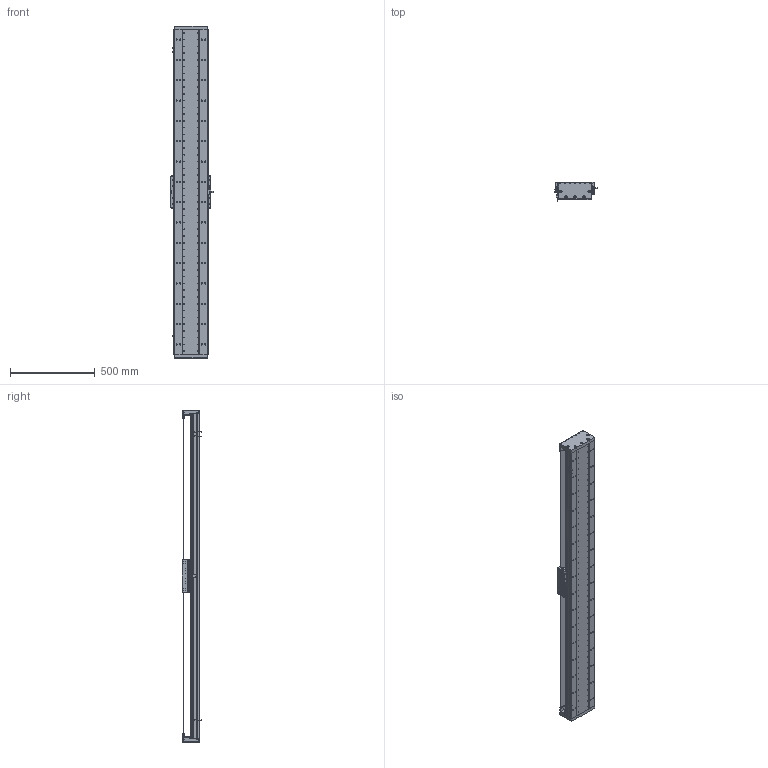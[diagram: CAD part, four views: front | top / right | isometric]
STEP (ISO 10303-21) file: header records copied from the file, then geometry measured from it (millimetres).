
FILE_DESCRIPTION (( 'STEP AP203' ), '1' );
FILE_NAME ('DA-C195-C2-T1680-C010-0.2 眻盄萇儂.STEP', '2025-08-15T01:07:40', ( '' ), ( '' ), 'SwSTEP 2.0', 'SolidWorks 2019', '' );
FILE_SCHEMA (( 'CONFIG_CONTROL_DESIGN' ));
Length unit declared in the file: millimetre
Products named in the file (15): DA195詩湍裔啣; IU-CU195-L 菁釱絳寢; DA-C195-C2-T1680-C010-0.2 眻盄萇儂; LMT黍杅芛; DA165-GYP-00 光电感应片(默认); DA195詩湍郪璃; DA-C195-GD-DB-H-00 傷啣; PM-T45ㄗ侂狟ㄘ; 葩璃 DA95-GT-T-00; DA95-HXJ-00 遣喳砎蝶; MS200 棠掑喜S315-T1740; IU-CU195-L-00 菁釱(L1920); DA195詩湍嶺輸; DA195詩湍菜輸; CU195-C2賑輸-俋楷
Assembly tree (29 placements, depth 3):
  DA-C195-C2-T1680-C010-0.2 眻盄萇儂
    DA195詩湍郪璃
      DA195詩湍菜輸  x2
      DA195詩湍裔啣
      DA195詩湍嶺輸  x2
      DA95-HXJ-00 遣喳砎蝶  x8
      DA-C195-GD-DB-H-00 傷啣  x2
    IU-CU195-L 菁釱絳寢
      IU-CU195-L-00 菁釱(L1920)
      葩璃 DA95-GT-T-00  x4
    LMT黍杅芛
    MS200 棠掑喜S315-T1740
    PM-T45ㄗ侂狟ㄘ  x3
    DA165-GYP-00 光电感应片(默认)
    CU195-C2賑輸-俋楷
Bounding box: 248 x 115.45 x 1960 mm (x, y, z)
Volume: 11729011.1 mm3; surface area: 3424928 mm2
Topology: 66 solids, 130 shells, 4102 faces, 11155 edges, 6983 vertices
Faces by surface type: cylinder 2095, plane 1389, cone 530, torus 52, sphere 36
Entity records: 125665 total; most frequent: CARTESIAN_POINT 32202, ORIENTED_EDGE 19194, DIRECTION 19032, EDGE_CURVE 9597, AXIS2_PLACEMENT_3D 7137, VERTEX_POINT 6185, VECTOR 4758, LINE 4758
